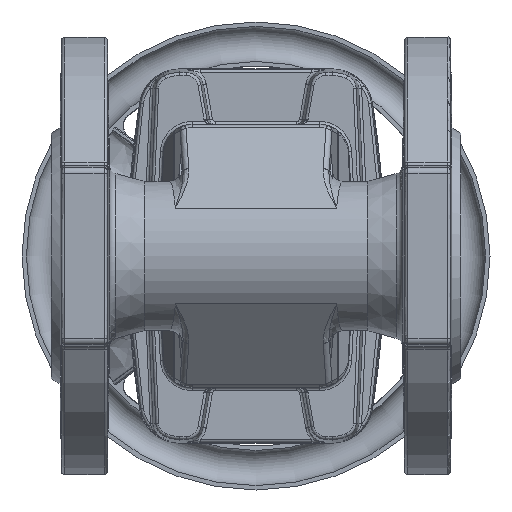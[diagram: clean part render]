
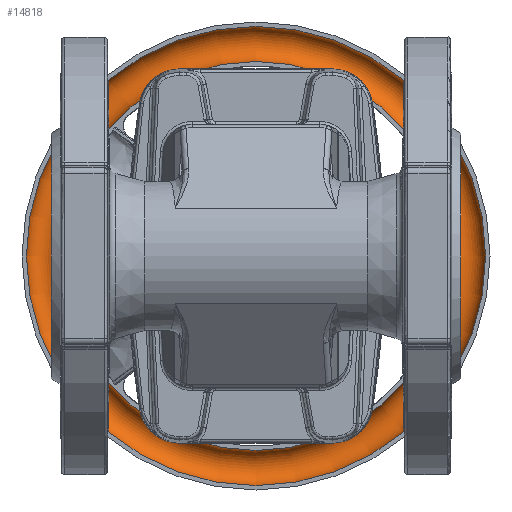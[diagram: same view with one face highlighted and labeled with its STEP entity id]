
A CAD part, front view. The second image highlights one B-rep face of the part: STEP entity #14818.
In plain terms, the highlighted toroidal (fillet/blend) face has major radius 72.5 mm and minor radius 6 mm.
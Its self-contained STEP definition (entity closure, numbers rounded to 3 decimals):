
#14804 = EDGE_LOOP ( 'NONE', ( #14806 ) ) ;
#14806 = ORIENTED_EDGE ( 'NONE', *, *, #14820, .T. ) ;
#14817 = EDGE_CURVE ( 'NONE', #53756, #53756, #19152, .T. ) ;
#14818 = ADVANCED_FACE ( 'NONE', ( #19094, #19138 ), #19151, .F. ) ;
#14820 = EDGE_CURVE ( 'NONE', #53857, #53857, #19187, .T. ) ;
#14827 = EDGE_LOOP ( 'NONE', ( #14872 ) ) ;
#14872 = ORIENTED_EDGE ( 'NONE', *, *, #14817, .F. ) ;
#19013 = CARTESIAN_POINT ( 'NONE',  ( 0., 221.29, 0. ) ) ;
#19079 = DIRECTION ( 'NONE',  ( 0., -1., 0. ) ) ;
#19094 = FACE_OUTER_BOUND ( 'NONE', #14827, .T. ) ;
#19111 = DIRECTION ( 'NONE',  ( 0., 0., -1. ) ) ;
#19113 = DIRECTION ( 'NONE',  ( 0., -1., 0. ) ) ;
#19115 = CARTESIAN_POINT ( 'NONE',  ( 0., 221.29, 0. ) ) ;
#19136 = AXIS2_PLACEMENT_3D ( 'NONE', #19013, #19079, #19188 ) ;
#19138 = FACE_OUTER_BOUND ( 'NONE', #14804, .T. ) ;
#19139 = AXIS2_PLACEMENT_3D ( 'NONE', #19115, #19113, #19111 ) ;
#19151 = TOROIDAL_SURFACE ( 'NONE', #19136, 72.5, 6. ) ;
#19152 = CIRCLE ( 'NONE', #19139, 66.5 ) ;
#19181 = DIRECTION ( 'NONE',  ( 0., 0., -1. ) ) ;
#19182 = DIRECTION ( 'NONE',  ( 0., -1., 0. ) ) ;
#19183 = CARTESIAN_POINT ( 'NONE',  ( 0., 221.29, 0. ) ) ;
#19184 = AXIS2_PLACEMENT_3D ( 'NONE', #19183, #19182, #19181 ) ;
#19187 = CIRCLE ( 'NONE', #19184, 78.5 ) ;
#19188 = DIRECTION ( 'NONE',  ( 0., 0., -1. ) ) ;
#53756 = VERTEX_POINT ( 'NONE', #53758 ) ;
#53758 = CARTESIAN_POINT ( 'NONE',  ( 0., 221.29, -66.5 ) ) ;
#53855 = CARTESIAN_POINT ( 'NONE',  ( 0., 221.29, -78.5 ) ) ;
#53857 = VERTEX_POINT ( 'NONE', #53855 ) ;
